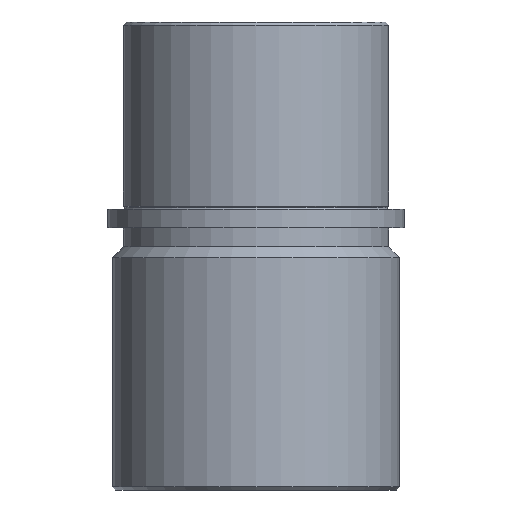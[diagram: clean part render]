
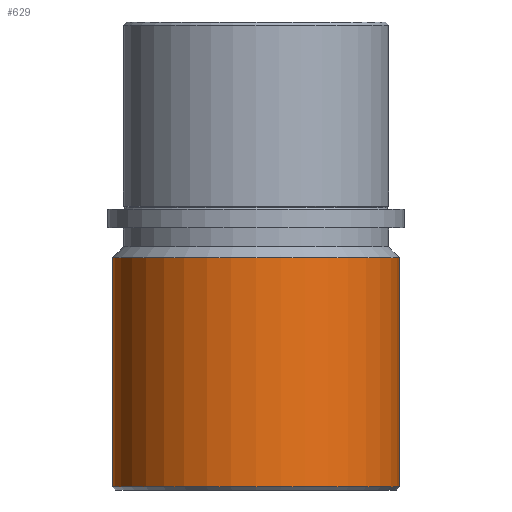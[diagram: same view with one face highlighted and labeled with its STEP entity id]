
A CAD part, front view. The second image highlights one B-rep face of the part: STEP entity #629.
In plain terms, the highlighted cylindrical face has radius 46 mm (diameter 92 mm), a partial arc.
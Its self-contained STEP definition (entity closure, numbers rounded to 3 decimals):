
#19 = DIRECTION ( 'NONE',  ( 1., 0., 0. ) ) ;
#21 = VERTEX_POINT ( 'NONE', #775 ) ;
#34 = CARTESIAN_POINT ( 'NONE',  ( 0., 0., 0. ) ) ;
#44 = VECTOR ( 'NONE', #873, 1000. ) ;
#47 = VERTEX_POINT ( 'NONE', #1030 ) ;
#57 = ORIENTED_EDGE ( 'NONE', *, *, #979, .T. ) ;
#159 = CIRCLE ( 'NONE', #250, 46. ) ;
#174 = LINE ( 'NONE', #974, #586 ) ;
#250 = AXIS2_PLACEMENT_3D ( 'NONE', #439, #594, #770 ) ;
#278 = DIRECTION ( 'NONE',  ( 0., 0., 1. ) ) ;
#279 = LINE ( 'NONE', #953, #44 ) ;
#342 = CARTESIAN_POINT ( 'NONE',  ( 46., 0., -149. ) ) ;
#357 = DIRECTION ( 'NONE',  ( 0., 0., 1. ) ) ;
#381 = EDGE_CURVE ( 'NONE', #21, #865, #159, .T. ) ;
#408 = EDGE_LOOP ( 'NONE', ( #434, #57, #435, #1068 ) ) ;
#427 = EDGE_CURVE ( 'NONE', #47, #21, #279, .T. ) ;
#434 = ORIENTED_EDGE ( 'NONE', *, *, #427, .F. ) ;
#435 = ORIENTED_EDGE ( 'NONE', *, *, #988, .T. ) ;
#439 = CARTESIAN_POINT ( 'NONE',  ( 0., 0., -75.5 ) ) ;
#543 = FACE_OUTER_BOUND ( 'NONE', #408, .T. ) ;
#586 = VECTOR ( 'NONE', #837, 1000. ) ;
#594 = DIRECTION ( 'NONE',  ( 0., 0., 1. ) ) ;
#629 = ADVANCED_FACE ( 'NONE', ( #543 ), #732, .T. ) ;
#682 = CARTESIAN_POINT ( 'NONE',  ( 46., 0., -75.5 ) ) ;
#732 = CYLINDRICAL_SURFACE ( 'NONE', #829, 46. ) ;
#770 = DIRECTION ( 'NONE',  ( 1., 0., 0. ) ) ;
#775 = CARTESIAN_POINT ( 'NONE',  ( -46., 0., -75.5 ) ) ;
#818 = CARTESIAN_POINT ( 'NONE',  ( 0., 0., -149. ) ) ;
#829 = AXIS2_PLACEMENT_3D ( 'NONE', #34, #357, #19 ) ;
#837 = DIRECTION ( 'NONE',  ( 0., 0., 1. ) ) ;
#865 = VERTEX_POINT ( 'NONE', #682 ) ;
#873 = DIRECTION ( 'NONE',  ( 0., 0., 1. ) ) ;
#953 = CARTESIAN_POINT ( 'NONE',  ( -46., 0., 0. ) ) ;
#974 = CARTESIAN_POINT ( 'NONE',  ( 46., 0., 0. ) ) ;
#979 = EDGE_CURVE ( 'NONE', #47, #1048, #1023, .T. ) ;
#988 = EDGE_CURVE ( 'NONE', #1048, #865, #174, .T. ) ;
#997 = DIRECTION ( 'NONE',  ( 1., 0., 0. ) ) ;
#1023 = CIRCLE ( 'NONE', #1027, 46. ) ;
#1027 = AXIS2_PLACEMENT_3D ( 'NONE', #818, #278, #997 ) ;
#1030 = CARTESIAN_POINT ( 'NONE',  ( -46., 0., -149. ) ) ;
#1048 = VERTEX_POINT ( 'NONE', #342 ) ;
#1068 = ORIENTED_EDGE ( 'NONE', *, *, #381, .F. ) ;
